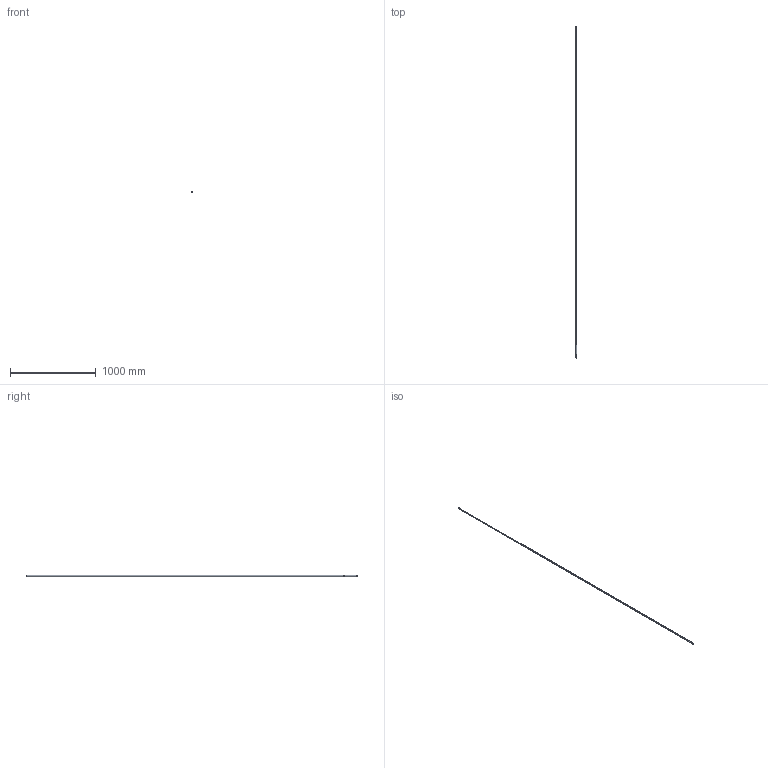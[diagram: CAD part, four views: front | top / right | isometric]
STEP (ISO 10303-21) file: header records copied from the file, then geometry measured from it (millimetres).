
FILE_DESCRIPTION (( 'STEP AP214' ), '1' );
FILE_NAME ('Guide Thimble Assembly.STEP', '2021-02-18T13:48:41', ( '' ), ( '' ), 'SwSTEP 2.0', 'SolidWorks 2020', '' );
FILE_SCHEMA (( 'AUTOMOTIVE_DESIGN' ));
Length unit declared in the file: inch
Products named in the file (3): Guide Thimble End Plug 210201; Guide Thimble Tube 210203; Guide Thimble Assembly
Assembly tree (2 placements, depth 2):
  Guide Thimble Assembly
    Guide Thimble End Plug 210201
    Guide Thimble Tube 210203
Bounding box: 12.45 x 3878.4 x 12.52 mm (x, y, z)
Volume: 77064 mm3; surface area: 292914 mm2
Topology: 2 solids, 2 shells, 43 faces, 118 edges, 76 vertices
Faces by surface type: cylinder 32, cone 6, plane 5
Entity records: 2286 total; most frequent: CARTESIAN_POINT 1070, ORIENTED_EDGE 236, DIRECTION 194, EDGE_CURVE 118, VERTEX_POINT 76, AXIS2_PLACEMENT_3D 76, EDGE_LOOP 64, B_SPLINE_CURVE_WITH_KNOTS 48
